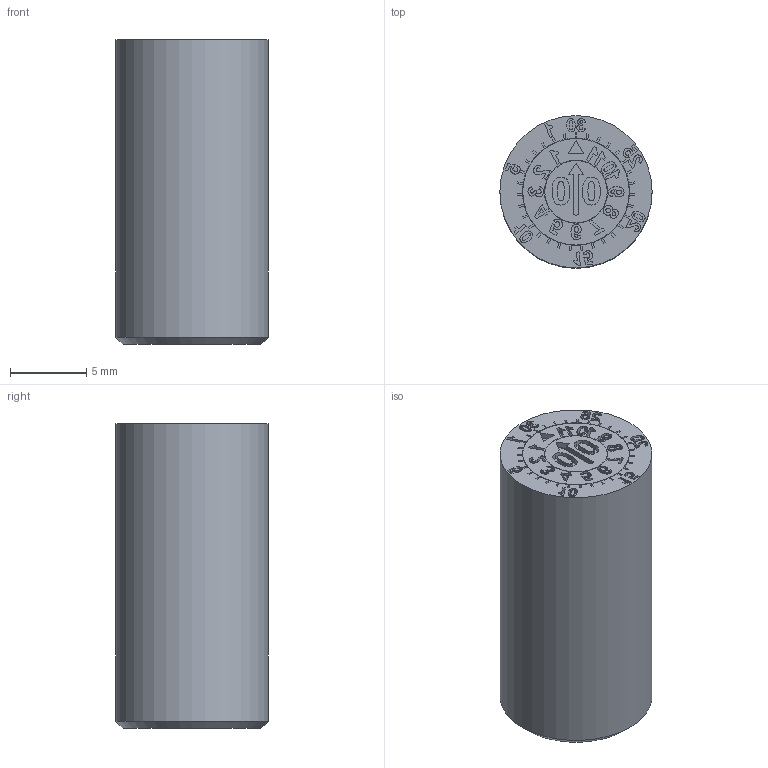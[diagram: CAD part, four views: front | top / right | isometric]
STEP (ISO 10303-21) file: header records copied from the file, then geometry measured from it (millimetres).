
FILE_DESCRIPTION(/* description */ (''),/* implementation_level */ '2;1');
FILE_NAME(/* name */ 'IMC-TA-9010-00.step',/* time_stamp */ '2025-11-28T13:46:49+01:00',/* author */ (''),/* organization */ (''),/* preprocessor_version */ 'ST-DEVELOPER v20.1',/* originating_system */ 'Autodesk Translation Framework v14.21.0.0',/* authorisation */ '');
FILE_SCHEMA (('AUTOMOTIVE_DESIGN { 1 0 10303 214 3 1 1 }'));
Length unit declared in the file: millimetre
Products named in the file (1): IMC-TA/9010/00
Bounding box: 10 x 10 x 20 mm (x, y, z)
Volume: 1498.2 mm3; surface area: 913.9 mm2
Topology: 1 solids, 1 shells, 671 faces, 1873 edges, 1248 vertices
Faces by surface type: bspline 374, plane 257, cylinder 37, cone 3
Full cylindrical faces by diameter (mm): 4.1 x1, 4.14 x1, 4.234 x1, 7 x1, 10 x1
Entity records: 25627 total; most frequent: CARTESIAN_POINT 10861, ORIENTED_EDGE 3744, EDGE_CURVE 1872, DIRECTION 1797, VERTEX_POINT 1248, LINE 1047, VECTOR 1047, B_SPLINE_CURVE_WITH_KNOTS 748
